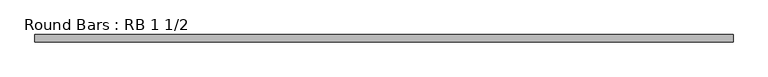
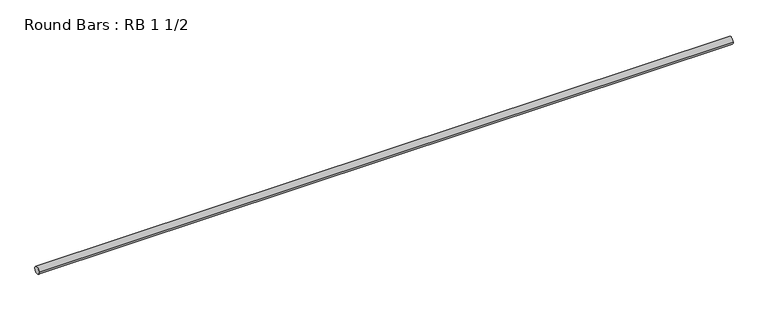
"""IFC4 building model written with IfcOpenShell, lengths in millimetres: member geometry, Round Bars : RB 1 1/2."""

from ifc_helpers import new_model, si_unit, point, frame, origin, origin_2d, place, context, project, spatial, circle_curve, trimmed, segment, composite_curve, outline, extrude, source, transform, mapped, element, save


def round_bars_rb_1_1_2_7c4ca48d(model_context):
    return source(origin(), model_context, "Body", "SweptSolid", [
        extrude(outline(composite_curve([segment(trimmed(circle_curve(origin_2d(), 19.05), [point((19.05, 0.0))], [point((-19.05, 0.0))], False, "CARTESIAN"), True, "CONTINUOUS"), segment(trimmed(circle_curve(origin_2d(), 19.05), [point((-19.05, 0.0))], [point((19.05, 0.0))], False, "CARTESIAN"), True, "CONTINUOUS")], self_intersect=False)), frame((-1843.9307292, 0.0, 0.0), z_axis=(1.0, 0.0, 0.0), x_axis=(0.0, 1.0, 0.0)), (0.0, 0.0, 1.0), 3687.8614583),
    ])


if __name__ == "__main__":
    model = new_model("IFC4")
    model_context = context("Model", 3, world=origin())
    ifc_project = project(units=[si_unit("LENGTHUNIT", "METRE", prefix="MILLI")], contexts=[model_context])
    site = spatial("IfcSite", under=ifc_project)
    building = spatial("IfcBuilding", under=site)
    placement = place(None, origin())
    round_bars_rb_1_1_2_shape = round_bars_rb_1_1_2_7c4ca48d(model_context)
    element("IfcMember", 1, ObjectType="Round Bars : RB 1 1/2", at=placement, inside=building, context=model_context, shape_type="MappedRepresentation", body=[
        mapped(round_bars_rb_1_1_2_shape, transform((0.0, 0.0, 0.0), x_axis=(1.0, 0.0, 0.0), y_axis=(0.0, 1.0, 0.0), z_axis=(0.0, 0.0, 1.0))),
    ])
    save(model, "model.ifc")
